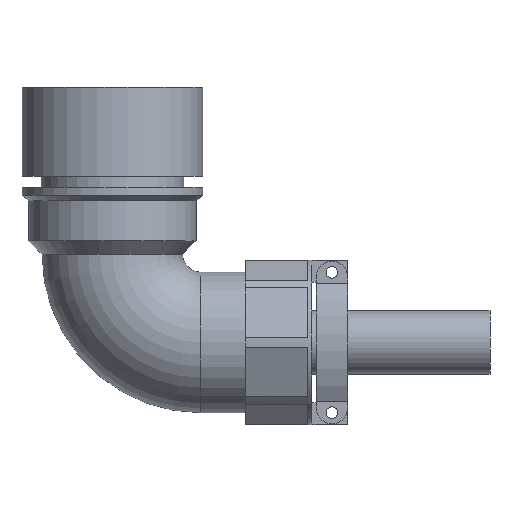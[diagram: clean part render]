
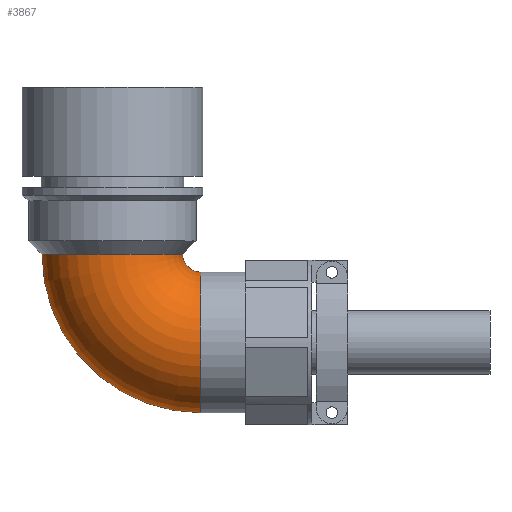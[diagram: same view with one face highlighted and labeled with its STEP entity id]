
A CAD part, front view. The second image highlights one B-rep face of the part: STEP entity #3867.
In plain terms, the highlighted toroidal (fillet/blend) face has major radius 19.844 mm and minor radius 15.8 mm.
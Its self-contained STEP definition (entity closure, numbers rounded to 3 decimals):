
#203 = CARTESIAN_POINT ( 'NONE',  ( 0., 0., -17.5 ) ) ;
#233 = DIRECTION ( 'NONE',  ( 0., 0., -1. ) ) ;
#240 = ORIENTED_EDGE ( 'NONE', *, *, #2229, .T. ) ;
#289 = CARTESIAN_POINT ( 'NONE',  ( 19.844, 0., -21.544 ) ) ;
#317 = ORIENTED_EDGE ( 'NONE', *, *, #3585, .F. ) ;
#500 = DIRECTION ( 'NONE',  ( 0., 0., -1. ) ) ;
#516 = CARTESIAN_POINT ( 'NONE',  ( 19.844, 0., -17.5 ) ) ;
#727 = CARTESIAN_POINT ( 'NONE',  ( -15.8, 0., -17.5 ) ) ;
#812 = DIRECTION ( 'NONE',  ( -1., 0., 0. ) ) ;
#1000 = VERTEX_POINT ( 'NONE', #3333 ) ;
#1054 = DIRECTION ( 'NONE',  ( 0., -1., 0. ) ) ;
#1065 = AXIS2_PLACEMENT_3D ( 'NONE', #516, #2379, #4050 ) ;
#1116 = VERTEX_POINT ( 'NONE', #289 ) ;
#1134 = CIRCLE ( 'NONE', #4029, 15.8 ) ;
#1301 = AXIS2_PLACEMENT_3D ( 'NONE', #1663, #1054, #2301 ) ;
#1401 = CIRCLE ( 'NONE', #3743, 15.8 ) ;
#1419 = VERTEX_POINT ( 'NONE', #3417 ) ;
#1499 = CARTESIAN_POINT ( 'NONE',  ( 19.844, 0., -17.5 ) ) ;
#1619 = EDGE_CURVE ( 'NONE', #1000, #4105, #1134, .T. ) ;
#1663 = CARTESIAN_POINT ( 'NONE',  ( 19.844, 0., -17.5 ) ) ;
#1796 = DIRECTION ( 'NONE',  ( 0., 0., -1. ) ) ;
#2002 = TOROIDAL_SURFACE ( 'NONE', #1065, 19.844, 15.8 ) ;
#2077 = FACE_OUTER_BOUND ( 'NONE', #2274, .T. ) ;
#2157 = CIRCLE ( 'NONE', #1301, 4.044 ) ;
#2229 = EDGE_CURVE ( 'NONE', #4105, #1419, #2756, .T. ) ;
#2274 = EDGE_LOOP ( 'NONE', ( #3475, #240, #317, #3677 ) ) ;
#2301 = DIRECTION ( 'NONE',  ( 0., 0., -1. ) ) ;
#2379 = DIRECTION ( 'NONE',  ( 0., -1., 0. ) ) ;
#2693 = AXIS2_PLACEMENT_3D ( 'NONE', #1499, #3768, #233 ) ;
#2756 = CIRCLE ( 'NONE', #2693, 35.644 ) ;
#3333 = CARTESIAN_POINT ( 'NONE',  ( 15.8, 0., -17.5 ) ) ;
#3391 = DIRECTION ( 'NONE',  ( 1., 0., 0. ) ) ;
#3417 = CARTESIAN_POINT ( 'NONE',  ( 19.844, 0., -53.144 ) ) ;
#3475 = ORIENTED_EDGE ( 'NONE', *, *, #1619, .T. ) ;
#3585 = EDGE_CURVE ( 'NONE', #1116, #1419, #1401, .T. ) ;
#3677 = ORIENTED_EDGE ( 'NONE', *, *, #4073, .F. ) ;
#3713 = CARTESIAN_POINT ( 'NONE',  ( 19.844, 0., -37.344 ) ) ;
#3743 = AXIS2_PLACEMENT_3D ( 'NONE', #3713, #3391, #1796 ) ;
#3768 = DIRECTION ( 'NONE',  ( 0., -1., 0. ) ) ;
#3867 = ADVANCED_FACE ( 'NONE', ( #2077 ), #2002, .T. ) ;
#4029 = AXIS2_PLACEMENT_3D ( 'NONE', #203, #500, #812 ) ;
#4050 = DIRECTION ( 'NONE',  ( 0., 0., -1. ) ) ;
#4073 = EDGE_CURVE ( 'NONE', #1000, #1116, #2157, .T. ) ;
#4105 = VERTEX_POINT ( 'NONE', #727 ) ;
